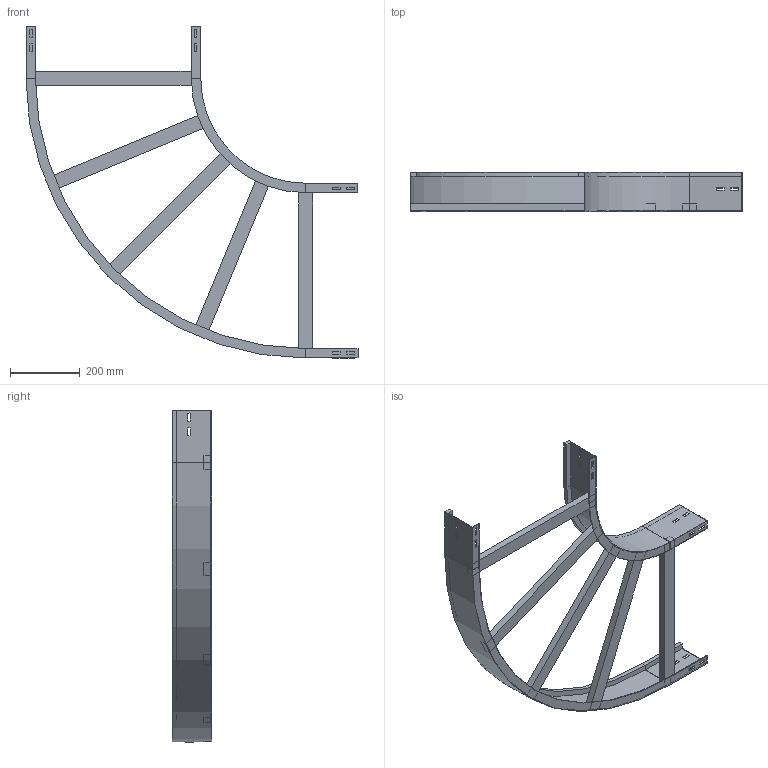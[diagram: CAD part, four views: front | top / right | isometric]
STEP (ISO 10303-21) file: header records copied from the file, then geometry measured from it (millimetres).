
FILE_DESCRIPTION (( 'STEP AP214' ), '1' );
FILE_NAME ('A2_10B3J500.step', '2025-02-21T15:24:43', ( '' ), ( '' ), 'SwSTEP 2.0', 'SolidWorks 2023', '' );
FILE_SCHEMA (( 'AUTOMOTIVE_DESIGN' ));
Length unit declared in the file: millimetre
Products named in the file (4): TRAVERSINO_500; A2_LONGH.ESTERNO 90°_H112.5_R300+500; A2_10B3J500; A2_LONGH.INTERNO 90°_H112.5_R300
Assembly tree (7 placements, depth 2):
  A2_10B3J500
    A2_LONGH.INTERNO 90°_H112.5_R300
    A2_LONGH.ESTERNO 90°_H112.5_R300+500
    TRAVERSINO_500  x5
Bounding box: 950 x 112.5 x 950 mm (x, y, z)
Volume: 3090990.1 mm3; surface area: 1030945.4 mm2
Topology: 7 solids, 7 shells, 146 faces, 364 edges, 232 vertices
Faces by surface type: plane 138, cylinder 8
Entity records: 3837 total; most frequent: CARTESIAN_POINT 648, ORIENTED_EDGE 632, DIRECTION 596, EDGE_CURVE 316, LINE 300, VECTOR 300, VERTEX_POINT 200, EDGE_LOOP 154
